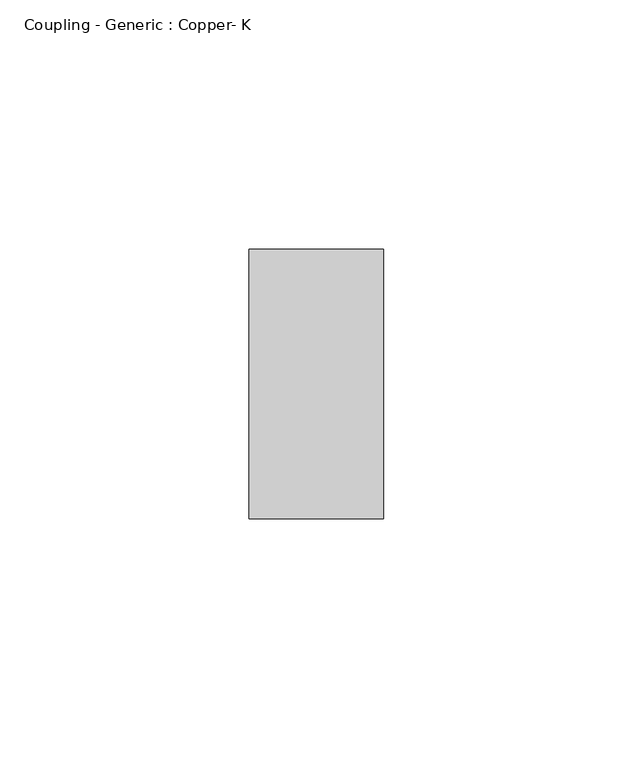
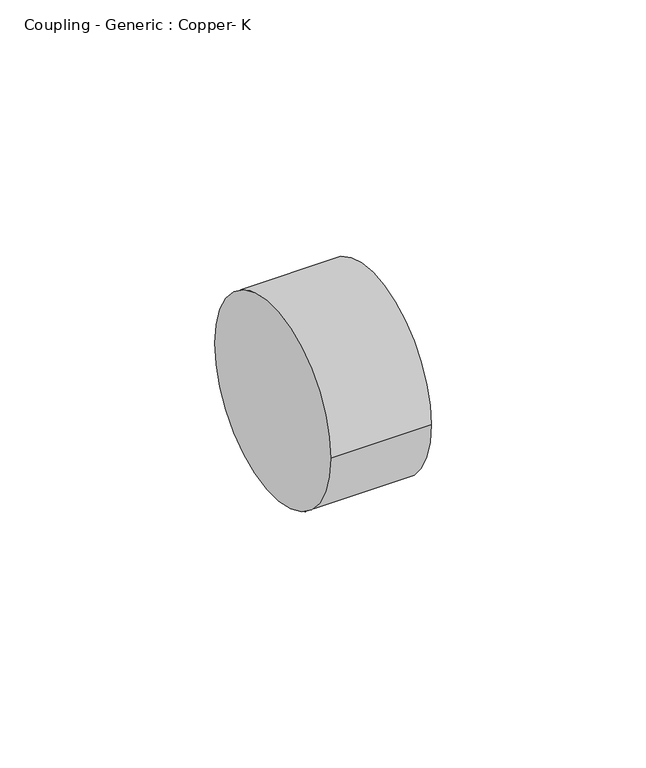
"""IFC4 building model written with IfcOpenShell, lengths in millimetres: pipe fitting geometry, Coupling - Generic : Copper- K."""

import ifcopenshell
import ifcopenshell.guid

model = None  # the IFC model being written
_history = None  # IfcOwnerHistory: only IFC2X3 demands one
_inside = {}  # id of a spatial element -> (the spatial element, [elements in it])
_under = {}  # id of a project, library or spatial element -> (it, [spatial elements below it])
_declared = {}  # id of a project -> (the project, [libraries it declares])
_typed = {}  # id of a type object -> (the type object, [elements of that type])
_made_of = {}  # id of a material, layer set ... -> (it, [elements and type objects made of it])


def new_model(schema):
    """Start an empty IFC model of exactly this schema.

    Asked for "IFC4X3", IfcOpenShell would pick the latest addendum, in which some entities
    have other attributes; the version numbers below select the first issue.
    IFC2X3 requires an IfcOwnerHistory on every rooted entity: one is made here for all.
    """
    global model, _history
    if schema == "IFC4X3":
        model = ifcopenshell.file(schema_version=(4, 3, 0, 0))
    else:
        model = ifcopenshell.file(schema=schema)
    _inside.clear()
    _under.clear()
    _declared.clear()
    _typed.clear()
    _made_of.clear()
    _history = None
    if model.schema == "IFC2X3":
        org = make("IfcOrganization", Name="unknown")
        user = make(
            "IfcPersonAndOrganization",
            ThePerson=make("IfcPerson", FamilyName="unknown"),
            TheOrganization=org,
        )
        app = make(
            "IfcApplication",
            ApplicationDeveloper=org,
            Version="unknown",
            ApplicationFullName="unknown",
            ApplicationIdentifier="unknown",
        )
        _history = make(
            "IfcOwnerHistory",
            OwningUser=user,
            OwningApplication=app,
            ChangeAction="ADDED",
            CreationDate=0,
        )
    return model


def make(cls, **values):
    """One entity of the class cls with the attributes given. An attribute that is None is left unset."""
    return model.create_entity(
        cls, **{name: value for name, value in values.items() if value is not None}
    )


def rooted(cls, **values):
    """An entity with a GlobalId (a new one), such as an element, a storey or a relation."""
    return make(cls, GlobalId=ifcopenshell.guid.new(), OwnerHistory=_history, **values)


def si_unit(unit_type, name, prefix=None):
    """IfcSIUnit, for example si_unit("LENGTHUNIT", "METRE", prefix="MILLI")."""
    return make("IfcSIUnit", UnitType=unit_type, Prefix=prefix, Name=name)


def assignment(units):
    """IfcUnitAssignment: the units of a project."""
    return None if units is None else make("IfcUnitAssignment", Units=units)


def point(xyz):
    """IfcCartesianPoint."""
    return None if xyz is None else make("IfcCartesianPoint", Coordinates=xyz)


def direction(xyz):
    """IfcDirection."""
    return None if xyz is None else make("IfcDirection", DirectionRatios=xyz)


def frame(location, z_axis=None, x_axis=None):
    """IfcAxis2Placement3D, a coordinate frame: its origin and axes. An axis left out is left unset."""
    return make(
        "IfcAxis2Placement3D",
        Location=point(location),
        Axis=direction(z_axis),
        RefDirection=direction(x_axis),
    )


def frame_2d(location, x_axis=None):
    """IfcAxis2Placement2D, a coordinate frame in the plane: its origin and x axis."""
    return make(
        "IfcAxis2Placement2D", Location=point(location), RefDirection=direction(x_axis)
    )


def origin():
    """The frame at (0, 0, 0) with its axes left unset."""
    return frame((0.0, 0.0, 0.0))


def origin_2d():
    """The frame at (0, 0) in the plane with its x axis left unset."""
    return frame_2d((0.0, 0.0))


def place(relative_to, where):
    """IfcLocalPlacement: puts the frame where relative to a parent placement (None: the world)."""
    return make(
        "IfcLocalPlacement", PlacementRelTo=relative_to, RelativePlacement=where
    )


def context(
    kind, dimensions, precision=None, world=None, true_north=None, identifier=None
):
    """IfcGeometricRepresentationContext, for example the 3D "Model" context."""
    return make(
        "IfcGeometricRepresentationContext",
        ContextIdentifier=identifier,
        ContextType=kind,
        CoordinateSpaceDimension=dimensions,
        Precision=precision,
        WorldCoordinateSystem=world,
        TrueNorth=true_north,
    )


def project(units=None, contexts=None):
    """IfcProject with its units and contexts."""
    return rooted(
        "IfcProject",
        Name="project",
        RepresentationContexts=contexts,
        UnitsInContext=assignment(units),
    )


def spatial(cls, under=None, at=None, **own):
    """A site, building, storey or space (cls), placed at a placement, below another one or the project."""
    s = rooted(cls, ObjectPlacement=at, **own)
    if under is not None:
        _under.setdefault(under.id(), (under, []))[1].append(s)
    return s


def circle_curve(where, radius):
    """IfcCircle in the frame where."""
    return make("IfcCircle", Position=where, Radius=radius)


def trimmed(basis, trim1, trim2, sense, master):
    """IfcTrimmedCurve: the piece of a basis curve between two trims."""
    return make(
        "IfcTrimmedCurve",
        BasisCurve=basis,
        Trim1=trim1,
        Trim2=trim2,
        SenseAgreement=sense,
        MasterRepresentation=master,
    )


def segment(curve, same_sense, transition):
    """IfcCompositeCurveSegment."""
    return make(
        "IfcCompositeCurveSegment",
        Transition=transition,
        SameSense=same_sense,
        ParentCurve=curve,
    )


def composite_curve(segments, self_intersect=None):
    """IfcCompositeCurve: segments joined end to end."""
    return make("IfcCompositeCurve", Segments=segments, SelfIntersect=self_intersect)


def outline(outer, holes=None, kind="AREA"):
    """IfcArbitraryClosedProfileDef: a profile drawn as a closed curve; with holes, ...WithVoids."""
    if holes is None:
        return make("IfcArbitraryClosedProfileDef", ProfileType=kind, OuterCurve=outer)
    return make(
        "IfcArbitraryProfileDefWithVoids",
        ProfileType=kind,
        OuterCurve=outer,
        InnerCurves=holes,
    )


def extrude(swept, where, along, depth):
    """IfcExtrudedAreaSolid: the profile swept, set in the frame where, extruded along a direction by depth."""
    return make(
        "IfcExtrudedAreaSolid",
        SweptArea=swept,
        Position=where,
        ExtrudedDirection=direction(along),
        Depth=depth,
    )


def shape(context_of_items, identifier, shape_type, items):
    """IfcShapeRepresentation: the items that make up one representation, for example the "Body"."""
    return make(
        "IfcShapeRepresentation",
        ContextOfItems=context_of_items,
        RepresentationIdentifier=identifier,
        RepresentationType=shape_type,
        Items=items,
    )


def source(mapping_origin, context_of_items, identifier, shape_type, items):
    """IfcRepresentationMap: a shape defined once, which mapped items show again and again."""
    return make(
        "IfcRepresentationMap",
        MappingOrigin=mapping_origin,
        MappedRepresentation=shape(context_of_items, identifier, shape_type, items),
    )


def transform(
    local_origin,
    x_axis=None,
    y_axis=None,
    z_axis=None,
    scale=None,
    scale2=None,
    scale3=None,
    uniform=True,
):
    """IfcCartesianTransformationOperator3D, or its non-uniform kind. x_axis, y_axis, z_axis: its Axis1, 2, 3."""
    if uniform:
        return make(
            "IfcCartesianTransformationOperator3D",
            Axis1=direction(x_axis),
            Axis2=direction(y_axis),
            LocalOrigin=point(local_origin),
            Scale=scale,
            Axis3=direction(z_axis),
        )
    return make(
        "IfcCartesianTransformationOperator3DnonUniform",
        Axis1=direction(x_axis),
        Axis2=direction(y_axis),
        LocalOrigin=point(local_origin),
        Scale=scale,
        Axis3=direction(z_axis),
        Scale2=scale2,
        Scale3=scale3,
    )


def mapped(mapping_source, mapping_target):
    """IfcMappedItem: shows the shape of a source again, moved by a transform."""
    return make(
        "IfcMappedItem", MappingSource=mapping_source, MappingTarget=mapping_target
    )


def made_of(thing, what):
    """Note that an element or type object is made of a material, layer set ...; save() writes the relation."""
    if what is not None:
        _made_of.setdefault(what.id(), (what, []))[1].append(thing)
    return thing


def element(
    cls,
    number,
    at=None,
    inside=None,
    cuts=None,
    type_object=None,
    material=None,
    context=None,
    identifier="Body",
    shape_type=None,
    held_by="IfcProductDefinitionShape",
    body=None,
    shapes=None,
    **own,
):
    """One element of the class cls, such as IfcWall. Its Tag is "e" and its number.

    at: its placement. inside: the storey or other place that contains it. cuts: it is an
    opening in that element (IfcRelVoidsElement). A single representation is given by context,
    identifier, shape_type and body (its items); several are given by shapes. held_by: the class
    of the entity that holds the representations. save() writes the other relations.
    """
    e = rooted(cls, Tag="e%d" % number, ObjectPlacement=at, **own)
    if body is not None:
        shapes = [shape(context, identifier, shape_type, body)]
    if shapes is not None:
        e.Representation = make(held_by, Representations=shapes)
    if inside is not None:
        _inside.setdefault(inside.id(), (inside, []))[1].append(e)
    if cuts is not None:
        rooted(
            "IfcRelVoidsElement", RelatingBuildingElement=cuts, RelatedOpeningElement=e
        )
    if type_object is not None:
        _typed.setdefault(type_object.id(), (type_object, []))[1].append(e)
    return made_of(e, material)


def aggregate(whole, parts):
    """IfcRelAggregates: a whole, such as a stair, and the parts it consists of."""
    return rooted("IfcRelAggregates", RelatingObject=whole, RelatedObjects=parts)


def save(model, path):
    """Write the relations noted so far, then the file.

    IfcRelAggregates (storeys below a building ...), IfcRelContainedInSpatialStructure (elements
    in a storey), IfcRelDefinesByType, IfcRelAssociatesMaterial and IfcRelDeclares: one each for
    every whole, place, type object, material and project.
    """
    for whole, parts in _under.values():
        aggregate(whole, parts)
    for where, things in _inside.values():
        rooted(
            "IfcRelContainedInSpatialStructure",
            RelatedElements=things,
            RelatingStructure=where,
        )
    for kind, things in _typed.values():
        rooted("IfcRelDefinesByType", RelatedObjects=things, RelatingType=kind)
    for what, things in _made_of.values():
        rooted("IfcRelAssociatesMaterial", RelatedObjects=things, RelatingMaterial=what)
    for by, libraries in _declared.values():
        rooted("IfcRelDeclares", RelatingContext=by, RelatedDefinitions=libraries)
    model.write(path)


def coupling_generic_copper_k_b13a3064(model_context):
    return source(origin(), model_context, "Body", "SweptSolid", [
        extrude(outline(composite_curve([segment(trimmed(circle_curve(origin_2d(), 26.9875), [point((-26.9875, 0.0))], [point((26.9875, 0.0))], False, "CARTESIAN"), True, "CONTINUOUS"), segment(trimmed(circle_curve(origin_2d(), 26.9875), [point((26.9875, 0.0))], [point((-26.9875, 0.0))], False, "CARTESIAN"), True, "CONTINUOUS")], self_intersect=False)), frame((-13.49375, 0.0, 0.0), z_axis=(1.0, 0.0, 0.0), x_axis=(0.0, 1.0, 0.0)), (0.0, 0.0, 1.0), 26.9875),
    ])


if __name__ == "__main__":
    model = new_model("IFC4")
    model_context = context("Model", 3, world=origin())
    ifc_project = project(units=[si_unit("LENGTHUNIT", "METRE", prefix="MILLI")], contexts=[model_context])
    site = spatial("IfcSite", under=ifc_project)
    building = spatial("IfcBuilding", under=site)
    placement = place(None, origin())
    coupling_generic_copper_k_shape = coupling_generic_copper_k_b13a3064(model_context)
    element("IfcPipeFitting", 1, ObjectType="Coupling - Generic : Copper- K", at=placement, inside=building, context=model_context, shape_type="MappedRepresentation", body=[
        mapped(coupling_generic_copper_k_shape, transform((0.0, 0.0, 0.0), x_axis=(1.0, 0.0, 0.0), y_axis=(0.0, 1.0, 0.0), z_axis=(0.0, 0.0, 1.0))),
    ])
    save(model, "model.ifc")
